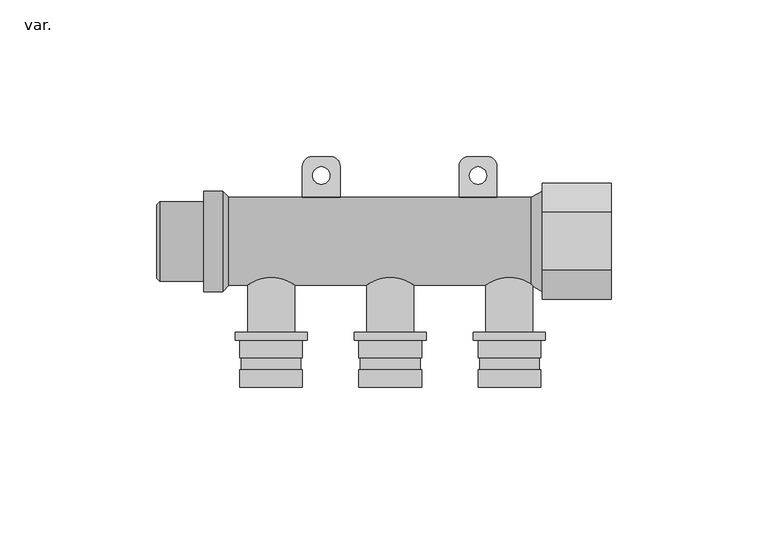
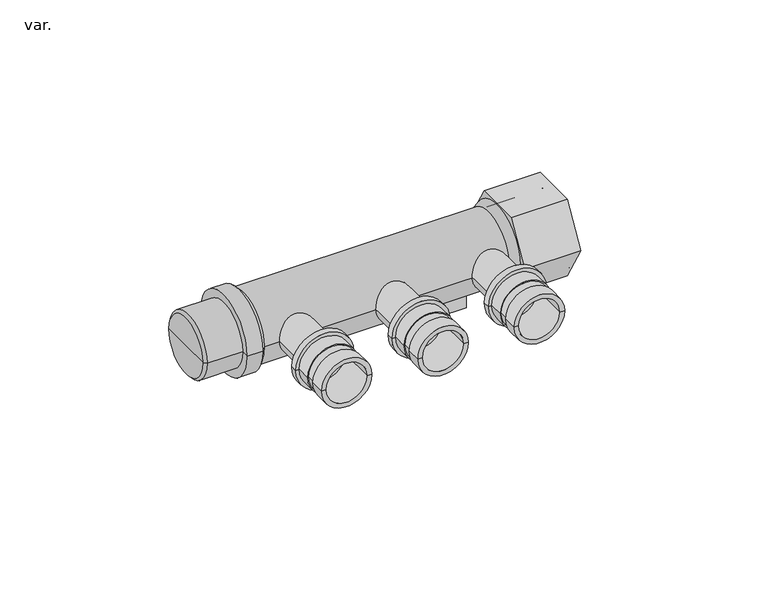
"""IFC4 building model written with IfcOpenShell, lengths in millimetres: pipe fitting geometry, AmancoWavin_ConexõesdeTubos_PEXMódulodeDistribuiçãoAberto3_4x16mm : var.."""

from ifc_helpers import new_model, si_unit, point, frame, origin, origin_2d, place, context, project, spatial, polyline, circle_curve, trimmed, segment, composite_curve, outline, extrude, source, transform, mapped, element, save
from ifc_brep_helpers import plane_surface, cylinder_surface, revolved_surface, advanced_brep


def var_a0e1c215(model_context):
    return source(origin(), model_context, "Body", "SolidModel", [
        advanced_brep(
        [(122.5, -46.5, 0.0), (102.5, -46.5, 0.0), (102.5, -40.875, 0.0), (122.5, -40.875, 0.0), (120.675, -46.5, 0.0), (104.325, -46.5, 0.0), (120.675, -31.5, 0.0), (104.325, -31.5, 0.0), (122.5, -31.5, 0.0), (102.5, -31.5, 0.0), (122.5, -37.125, 0.0), (102.5, -37.125, 0.0), (103.0, -40.875, 0.0), (122.0, -40.875, 0.0), (103.0, -37.125, 0.0), (122.0, -37.125, 0.0)],
        [
            (0, 1, circle_curve(frame((112.5, -46.5, 0.0), z_axis=(0.0, 1.0, 0.0), x_axis=(-1.0, 0.0, 0.0)), 10.0)),
            (1, 2),
            (2, 3, circle_curve(frame((112.5, -40.875, 0.0), z_axis=(0.0, -1.0, 0.0), x_axis=(-1.0, 0.0, 0.0)), 10.0)),
            (3, 0),
            (1, 0, circle_curve(frame((112.5, -46.5, 0.0), z_axis=(0.0, 1.0, 0.0), x_axis=(-1.0, 0.0, 0.0)), 10.0)),
            (3, 2, circle_curve(frame((112.5, -40.875, 0.0), z_axis=(0.0, -1.0, 0.0), x_axis=(-1.0, 0.0, 0.0)), 10.0)),
            (0, 4),
            (4, 5, circle_curve(frame((112.5, -46.5, 0.0), z_axis=(0.0, 1.0, 0.0), x_axis=(-1.0, 0.0, 0.0)), 8.175)),
            (5, 1),
            (5, 4, circle_curve(frame((112.5, -46.5, 0.0), z_axis=(0.0, 1.0, 0.0), x_axis=(-1.0, 0.0, 0.0)), 8.175)),
            (4, 6),
            (6, 7, circle_curve(frame((112.5, -31.5, 0.0), z_axis=(0.0, 1.0, 0.0), x_axis=(-1.0, 0.0, 0.0)), 8.175)),
            (7, 5),
            (7, 6, circle_curve(frame((112.5, -31.5, 0.0), z_axis=(0.0, 1.0, 0.0), x_axis=(-1.0, 0.0, 0.0)), 8.175)),
            (6, 8),
            (8, 9, circle_curve(frame((112.5, -31.5, 0.0), z_axis=(0.0, 1.0, 0.0), x_axis=(-1.0, 0.0, 0.0)), 10.0)),
            (9, 7),
            (9, 8, circle_curve(frame((112.5, -31.5, 0.0), z_axis=(0.0, 1.0, 0.0), x_axis=(-1.0, 0.0, 0.0)), 10.0)),
            (8, 10),
            (10, 11, circle_curve(frame((112.5, -37.125, 0.0), z_axis=(0.0, 1.0, 0.0), x_axis=(-1.0, 0.0, 0.0)), 10.0)),
            (11, 9),
            (11, 10, circle_curve(frame((112.5, -37.125, 0.0), z_axis=(0.0, 1.0, 0.0), x_axis=(-1.0, 0.0, 0.0)), 10.0)),
            (12, 13, circle_curve(frame((112.5, -40.875, 0.0), z_axis=(0.0, -1.0, 0.0), x_axis=(-1.0, 0.0, 0.0)), 9.5)),
            (13, 3),
            (2, 12),
            (13, 12, circle_curve(frame((112.5, -40.875, 0.0), z_axis=(0.0, -1.0, 0.0), x_axis=(-1.0, 0.0, 0.0)), 9.5)),
            (12, 14),
            (14, 15, circle_curve(frame((112.5, -37.125, 0.0), z_axis=(0.0, -1.0, 0.0), x_axis=(-1.0, 0.0, 0.0)), 9.5)),
            (15, 13),
            (15, 14, circle_curve(frame((112.5, -37.125, 0.0), z_axis=(0.0, -1.0, 0.0), x_axis=(-1.0, 0.0, 0.0)), 9.5)),
            (14, 11),
            (10, 15),
        ],
        [
            cylinder_surface(frame((112.5, -2040.6007619, 0.0), z_axis=(0.0, -1.0, 0.0), x_axis=(-1.0, 0.0, 0.0)), 10.0),
            plane_surface(frame((112.5, -46.5, 0.0), z_axis=(0.0, -1.0, 0.0), x_axis=(-1.0, 0.0, 0.0))),
            revolved_surface(polyline([(104.325, -46.5, 0.0), (104.325, -31.5, 0.0)]), (112.5, -2040.6007619, 0.0), (0.0, -1.0, 0.0)),
            plane_surface(frame((112.5, -31.5, 0.0), z_axis=(0.0, 1.0, 0.0), x_axis=(-1.0, 0.0, 0.0))),
            plane_surface(frame((112.5, -40.875, 0.0), z_axis=(0.0, 1.0, 0.0), x_axis=(-1.0, 0.0, 0.0))),
            cylinder_surface(frame((112.5, -2040.6007619, 0.0), z_axis=(0.0, -1.0, 0.0), x_axis=(-1.0, 0.0, 0.0)), 9.5),
            plane_surface(frame((112.5, -37.125, 0.0), z_axis=(0.0, -1.0, 0.0), x_axis=(-1.0, 0.0, 0.0))),
        ],
        [
            (0, [[1, 2, 3, 4]]),
            (0, [[5, -4, 6, -2]]),
            (1, [[-1, 7, 8, 9]]),
            (1, [[-5, -9, 10, -7]]),
            (2, [[-8, 11, 12, 13]]),
            (2, [[-10, -13, 14, -11]]),
            (3, [[-12, 15, 16, 17]]),
            (3, [[-14, -17, 18, -15]]),
            (0, [[-16, 19, 20, 21]]),
            (0, [[-18, -21, 22, -19]]),
            (4, [[23, 24, -3, 25]]),
            (4, [[26, -25, -6, -24]]),
            (5, [[-23, 27, 28, 29]]),
            (5, [[-26, -29, 30, -27]]),
            (6, [[-28, 31, -20, 32]]),
            (6, [[-30, -32, -22, -31]]),
        ],
    ),
        advanced_brep(
        [(84.5, -46.5, 0.0), (64.5, -46.5, 0.0), (64.5, -40.875, 0.0), (84.5, -40.875, 0.0), (82.675, -46.5, 0.0), (66.325, -46.5, 0.0), (82.675, -31.5, 0.0), (66.325, -31.5, 0.0), (84.5, -31.5, 0.0), (64.5, -31.5, 0.0), (84.5, -37.125, 0.0), (64.5, -37.125, 0.0), (65.0, -40.875, 0.0), (84.0, -40.875, 0.0), (65.0, -37.125, 0.0), (84.0, -37.125, 0.0)],
        [
            (0, 1, circle_curve(frame((74.5, -46.5, 0.0), z_axis=(0.0, 1.0, 0.0), x_axis=(-1.0, 0.0, 0.0)), 10.0)),
            (1, 2),
            (2, 3, circle_curve(frame((74.5, -40.875, 0.0), z_axis=(0.0, -1.0, 0.0), x_axis=(-1.0, 0.0, 0.0)), 10.0)),
            (3, 0),
            (1, 0, circle_curve(frame((74.5, -46.5, 0.0), z_axis=(0.0, 1.0, 0.0), x_axis=(-1.0, 0.0, 0.0)), 10.0)),
            (3, 2, circle_curve(frame((74.5, -40.875, 0.0), z_axis=(0.0, -1.0, 0.0), x_axis=(-1.0, 0.0, 0.0)), 10.0)),
            (0, 4),
            (4, 5, circle_curve(frame((74.5, -46.5, 0.0), z_axis=(0.0, 1.0, 0.0), x_axis=(-1.0, 0.0, 0.0)), 8.175)),
            (5, 1),
            (5, 4, circle_curve(frame((74.5, -46.5, 0.0), z_axis=(0.0, 1.0, 0.0), x_axis=(-1.0, 0.0, 0.0)), 8.175)),
            (4, 6),
            (6, 7, circle_curve(frame((74.5, -31.5, 0.0), z_axis=(0.0, 1.0, 0.0), x_axis=(-1.0, 0.0, 0.0)), 8.175)),
            (7, 5),
            (7, 6, circle_curve(frame((74.5, -31.5, 0.0), z_axis=(0.0, 1.0, 0.0), x_axis=(-1.0, 0.0, 0.0)), 8.175)),
            (6, 8),
            (8, 9, circle_curve(frame((74.5, -31.5, 0.0), z_axis=(0.0, 1.0, 0.0), x_axis=(-1.0, 0.0, 0.0)), 10.0)),
            (9, 7),
            (9, 8, circle_curve(frame((74.5, -31.5, 0.0), z_axis=(0.0, 1.0, 0.0), x_axis=(-1.0, 0.0, 0.0)), 10.0)),
            (8, 10),
            (10, 11, circle_curve(frame((74.5, -37.125, 0.0), z_axis=(0.0, 1.0, 0.0), x_axis=(-1.0, 0.0, 0.0)), 10.0)),
            (11, 9),
            (11, 10, circle_curve(frame((74.5, -37.125, 0.0), z_axis=(0.0, 1.0, 0.0), x_axis=(-1.0, 0.0, 0.0)), 10.0)),
            (12, 13, circle_curve(frame((74.5, -40.875, 0.0), z_axis=(0.0, -1.0, 0.0), x_axis=(-1.0, 0.0, 0.0)), 9.5)),
            (13, 3),
            (2, 12),
            (13, 12, circle_curve(frame((74.5, -40.875, 0.0), z_axis=(0.0, -1.0, 0.0), x_axis=(-1.0, 0.0, 0.0)), 9.5)),
            (12, 14),
            (14, 15, circle_curve(frame((74.5, -37.125, 0.0), z_axis=(0.0, -1.0, 0.0), x_axis=(-1.0, 0.0, 0.0)), 9.5)),
            (15, 13),
            (15, 14, circle_curve(frame((74.5, -37.125, 0.0), z_axis=(0.0, -1.0, 0.0), x_axis=(-1.0, 0.0, 0.0)), 9.5)),
            (14, 11),
            (10, 15),
        ],
        [
            cylinder_surface(frame((74.5, -2040.6007619, 0.0), z_axis=(0.0, -1.0, 0.0), x_axis=(-1.0, 0.0, 0.0)), 10.0),
            plane_surface(frame((74.5, -46.5, 0.0), z_axis=(0.0, -1.0, 0.0), x_axis=(-1.0, 0.0, 0.0))),
            revolved_surface(polyline([(66.325, -46.5, 0.0), (66.325, -31.5, 0.0)]), (74.5, -2040.6007619, 0.0), (0.0, -1.0, 0.0)),
            plane_surface(frame((74.5, -31.5, 0.0), z_axis=(0.0, 1.0, 0.0), x_axis=(-1.0, 0.0, 0.0))),
            plane_surface(frame((74.5, -40.875, 0.0), z_axis=(0.0, 1.0, 0.0), x_axis=(-1.0, 0.0, 0.0))),
            cylinder_surface(frame((74.5, -2040.6007619, 0.0), z_axis=(0.0, -1.0, 0.0), x_axis=(-1.0, 0.0, 0.0)), 9.5),
            plane_surface(frame((74.5, -37.125, 0.0), z_axis=(0.0, -1.0, 0.0), x_axis=(-1.0, 0.0, 0.0))),
        ],
        [
            (0, [[1, 2, 3, 4]]),
            (0, [[5, -4, 6, -2]]),
            (1, [[-1, 7, 8, 9]]),
            (1, [[-5, -9, 10, -7]]),
            (2, [[-8, 11, 12, 13]]),
            (2, [[-10, -13, 14, -11]]),
            (3, [[-12, 15, 16, 17]]),
            (3, [[-14, -17, 18, -15]]),
            (0, [[-16, 19, 20, 21]]),
            (0, [[-18, -21, 22, -19]]),
            (4, [[23, 24, -3, 25]]),
            (4, [[26, -25, -6, -24]]),
            (5, [[-23, 27, 28, 29]]),
            (5, [[-26, -29, 30, -27]]),
            (6, [[-28, 31, -20, 32]]),
            (6, [[-30, -32, -22, -31]]),
        ],
    ),
        advanced_brep(
        [(46.5, -46.5, 0.0), (26.5, -46.5, 0.0), (26.5, -40.875, 0.0), (46.5, -40.875, 0.0), (44.675, -46.5, 0.0), (28.325, -46.5, 0.0), (44.675, -31.5, 0.0), (28.325, -31.5, 0.0), (46.5, -31.5, 0.0), (26.5, -31.5, 0.0), (46.5, -37.125, 0.0), (26.5, -37.125, 0.0), (27.0, -40.875, 0.0), (46.0, -40.875, 0.0), (27.0, -37.125, 0.0), (46.0, -37.125, 0.0)],
        [
            (0, 1, circle_curve(frame((36.5, -46.5, 0.0), z_axis=(0.0, 1.0, 0.0), x_axis=(-1.0, 0.0, 0.0)), 10.0)),
            (1, 2),
            (2, 3, circle_curve(frame((36.5, -40.875, 0.0), z_axis=(0.0, -1.0, 0.0), x_axis=(-1.0, 0.0, 0.0)), 10.0)),
            (3, 0),
            (1, 0, circle_curve(frame((36.5, -46.5, 0.0), z_axis=(0.0, 1.0, 0.0), x_axis=(-1.0, 0.0, 0.0)), 10.0)),
            (3, 2, circle_curve(frame((36.5, -40.875, 0.0), z_axis=(0.0, -1.0, 0.0), x_axis=(-1.0, 0.0, 0.0)), 10.0)),
            (0, 4),
            (4, 5, circle_curve(frame((36.5, -46.5, 0.0), z_axis=(0.0, 1.0, 0.0), x_axis=(-1.0, 0.0, 0.0)), 8.175)),
            (5, 1),
            (5, 4, circle_curve(frame((36.5, -46.5, 0.0), z_axis=(0.0, 1.0, 0.0), x_axis=(-1.0, 0.0, 0.0)), 8.175)),
            (4, 6),
            (6, 7, circle_curve(frame((36.5, -31.5, 0.0), z_axis=(0.0, 1.0, 0.0), x_axis=(-1.0, 0.0, 0.0)), 8.175)),
            (7, 5),
            (7, 6, circle_curve(frame((36.5, -31.5, 0.0), z_axis=(0.0, 1.0, 0.0), x_axis=(-1.0, 0.0, 0.0)), 8.175)),
            (6, 8),
            (8, 9, circle_curve(frame((36.5, -31.5, 0.0), z_axis=(0.0, 1.0, 0.0), x_axis=(-1.0, 0.0, 0.0)), 10.0)),
            (9, 7),
            (9, 8, circle_curve(frame((36.5, -31.5, 0.0), z_axis=(0.0, 1.0, 0.0), x_axis=(-1.0, 0.0, 0.0)), 10.0)),
            (8, 10),
            (10, 11, circle_curve(frame((36.5, -37.125, 0.0), z_axis=(0.0, 1.0, 0.0), x_axis=(-1.0, 0.0, 0.0)), 10.0)),
            (11, 9),
            (11, 10, circle_curve(frame((36.5, -37.125, 0.0), z_axis=(0.0, 1.0, 0.0), x_axis=(-1.0, 0.0, 0.0)), 10.0)),
            (12, 13, circle_curve(frame((36.5, -40.875, 0.0), z_axis=(0.0, -1.0, 0.0), x_axis=(-1.0, 0.0, 0.0)), 9.5)),
            (13, 3),
            (2, 12),
            (13, 12, circle_curve(frame((36.5, -40.875, 0.0), z_axis=(0.0, -1.0, 0.0), x_axis=(-1.0, 0.0, 0.0)), 9.5)),
            (12, 14),
            (14, 15, circle_curve(frame((36.5, -37.125, 0.0), z_axis=(0.0, -1.0, 0.0), x_axis=(-1.0, 0.0, 0.0)), 9.5)),
            (15, 13),
            (15, 14, circle_curve(frame((36.5, -37.125, 0.0), z_axis=(0.0, -1.0, 0.0), x_axis=(-1.0, 0.0, 0.0)), 9.5)),
            (14, 11),
            (10, 15),
        ],
        [
            cylinder_surface(frame((36.5, -2040.6007619, 0.0), z_axis=(0.0, -1.0, 0.0), x_axis=(-1.0, 0.0, 0.0)), 10.0),
            plane_surface(frame((36.5, -46.5, 0.0), z_axis=(0.0, -1.0, 0.0), x_axis=(-1.0, 0.0, 0.0))),
            revolved_surface(polyline([(28.325, -46.5, 0.0), (28.325, -31.5, 0.0)]), (36.5, -2040.6007619, 0.0), (0.0, -1.0, 0.0)),
            plane_surface(frame((36.5, -31.5, 0.0), z_axis=(0.0, 1.0, 0.0), x_axis=(-1.0, 0.0, 0.0))),
            plane_surface(frame((36.5, -40.875, 0.0), z_axis=(0.0, 1.0, 0.0), x_axis=(-1.0, 0.0, 0.0))),
            cylinder_surface(frame((36.5, -2040.6007619, 0.0), z_axis=(0.0, -1.0, 0.0), x_axis=(-1.0, 0.0, 0.0)), 9.5),
            plane_surface(frame((36.5, -37.125, 0.0), z_axis=(0.0, -1.0, 0.0), x_axis=(-1.0, 0.0, 0.0))),
        ],
        [
            (0, [[1, 2, 3, 4]]),
            (0, [[5, -4, 6, -2]]),
            (1, [[-1, 7, 8, 9]]),
            (1, [[-5, -9, 10, -7]]),
            (2, [[-8, 11, 12, 13]]),
            (2, [[-10, -13, 14, -11]]),
            (3, [[-12, 15, 16, 17]]),
            (3, [[-14, -17, 18, -15]]),
            (0, [[-16, 19, 20, 21]]),
            (0, [[-18, -21, 22, -19]]),
            (4, [[23, 24, -3, 25]]),
            (4, [[26, -25, -6, -24]]),
            (5, [[-23, 27, 28, 29]]),
            (5, [[-26, -29, 30, -27]]),
            (6, [[-28, 31, -20, 32]]),
            (6, [[-30, -32, -22, -31]]),
        ],
    ),
        advanced_brep(
        [(120.0, 0.0, 0.0), (105.0, 0.0, 0.0), (112.5, 0.0, 0.0), (120.0, -29.0, 0.0), (105.0, -29.0, 0.0), (124.0, -29.0, 0.0), (101.0, -29.0, 0.0), (124.0, -31.5, 0.0), (101.0, -31.5, 0.0), (112.5, -31.5, 0.0)],
        [
            (0, 1, circle_curve(frame((112.5, 0.0, 0.0), z_axis=(0.0, 1.0, 0.0), x_axis=(-1.0, 0.0, 0.0)), 7.5)),
            (1, 2),
            (2, 0),
            (1, 0, circle_curve(frame((112.5, 0.0, 0.0), z_axis=(0.0, 1.0, 0.0), x_axis=(-1.0, 0.0, 0.0)), 7.5)),
            (3, 4, circle_curve(frame((112.5, -29.0, 0.0), z_axis=(0.0, 1.0, 0.0), x_axis=(-1.0, 0.0, 0.0)), 7.5)),
            (4, 1),
            (0, 3),
            (4, 3, circle_curve(frame((112.5, -29.0, 0.0), z_axis=(0.0, 1.0, 0.0), x_axis=(-1.0, 0.0, 0.0)), 7.5)),
            (5, 6, circle_curve(frame((112.5, -29.0, 0.0), z_axis=(0.0, 1.0, 0.0), x_axis=(-1.0, 0.0, 0.0)), 11.5)),
            (6, 4),
            (3, 5),
            (6, 5, circle_curve(frame((112.5, -29.0, 0.0), z_axis=(0.0, 1.0, 0.0), x_axis=(-1.0, 0.0, 0.0)), 11.5)),
            (7, 8, circle_curve(frame((112.5, -31.5, 0.0), z_axis=(0.0, 1.0, 0.0), x_axis=(-1.0, 0.0, 0.0)), 11.5)),
            (8, 6),
            (5, 7),
            (8, 7, circle_curve(frame((112.5, -31.5, 0.0), z_axis=(0.0, 1.0, 0.0), x_axis=(-1.0, 0.0, 0.0)), 11.5)),
            (9, 8),
            (7, 9),
        ],
        [
            plane_surface(frame((112.5, 0.0, 0.0), z_axis=(0.0, 1.0, 0.0), x_axis=(-1.0, 0.0, 0.0))),
            cylinder_surface(frame((112.5, 0.0, 0.0), z_axis=(0.0, -1.0, 0.0), x_axis=(-1.0, 0.0, 0.0)), 7.5),
            plane_surface(frame((112.5, -29.0, 0.0), z_axis=(0.0, 1.0, 0.0), x_axis=(-1.0, 0.0, 0.0))),
            cylinder_surface(frame((112.5, 0.0, 0.0), z_axis=(0.0, -1.0, 0.0), x_axis=(-1.0, 0.0, 0.0)), 11.5),
            plane_surface(frame((112.5, -31.5, 0.0), z_axis=(0.0, -1.0, 0.0), x_axis=(-1.0, 0.0, 0.0))),
        ],
        [
            (0, [[1, 2, 3]]),
            (0, [[4, -3, -2]]),
            (1, [[5, 6, -1, 7]]),
            (1, [[8, -7, -4, -6]]),
            (2, [[9, 10, -5, 11]]),
            (2, [[12, -11, -8, -10]]),
            (3, [[13, 14, -9, 15]]),
            (3, [[16, -15, -12, -14]]),
            (4, [[17, -13, 18]]),
            (4, [[-18, -16, -17]]),
        ],
    ),
        advanced_brep(
        [(82.0, 0.0, 0.0), (67.0, 0.0, 0.0), (74.5, 0.0, 0.0), (82.0, -29.0, 0.0), (67.0, -29.0, 0.0), (86.0, -29.0, 0.0), (63.0, -29.0, 0.0), (86.0, -31.5, 0.0), (63.0, -31.5, 0.0), (74.5, -31.5, 0.0)],
        [
            (0, 1, circle_curve(frame((74.5, 0.0, 0.0), z_axis=(0.0, 1.0, 0.0), x_axis=(-1.0, 0.0, 0.0)), 7.5)),
            (1, 2),
            (2, 0),
            (1, 0, circle_curve(frame((74.5, 0.0, 0.0), z_axis=(0.0, 1.0, 0.0), x_axis=(-1.0, 0.0, 0.0)), 7.5)),
            (3, 4, circle_curve(frame((74.5, -29.0, 0.0), z_axis=(0.0, 1.0, 0.0), x_axis=(-1.0, 0.0, 0.0)), 7.5)),
            (4, 1),
            (0, 3),
            (4, 3, circle_curve(frame((74.5, -29.0, 0.0), z_axis=(0.0, 1.0, 0.0), x_axis=(-1.0, 0.0, 0.0)), 7.5)),
            (5, 6, circle_curve(frame((74.5, -29.0, 0.0), z_axis=(0.0, 1.0, 0.0), x_axis=(-1.0, 0.0, 0.0)), 11.5)),
            (6, 4),
            (3, 5),
            (6, 5, circle_curve(frame((74.5, -29.0, 0.0), z_axis=(0.0, 1.0, 0.0), x_axis=(-1.0, 0.0, 0.0)), 11.5)),
            (7, 8, circle_curve(frame((74.5, -31.5, 0.0), z_axis=(0.0, 1.0, 0.0), x_axis=(-1.0, 0.0, 0.0)), 11.5)),
            (8, 6),
            (5, 7),
            (8, 7, circle_curve(frame((74.5, -31.5, 0.0), z_axis=(0.0, 1.0, 0.0), x_axis=(-1.0, 0.0, 0.0)), 11.5)),
            (9, 8),
            (7, 9),
        ],
        [
            plane_surface(frame((74.5, 0.0, 0.0), z_axis=(0.0, 1.0, 0.0), x_axis=(-1.0, 0.0, 0.0))),
            cylinder_surface(frame((74.5, 0.0, 0.0), z_axis=(0.0, -1.0, 0.0), x_axis=(-1.0, 0.0, 0.0)), 7.5),
            plane_surface(frame((74.5, -29.0, 0.0), z_axis=(0.0, 1.0, 0.0), x_axis=(-1.0, 0.0, 0.0))),
            cylinder_surface(frame((74.5, 0.0, 0.0), z_axis=(0.0, -1.0, 0.0), x_axis=(-1.0, 0.0, 0.0)), 11.5),
            plane_surface(frame((74.5, -31.5, 0.0), z_axis=(0.0, -1.0, 0.0), x_axis=(-1.0, 0.0, 0.0))),
        ],
        [
            (0, [[1, 2, 3]]),
            (0, [[4, -3, -2]]),
            (1, [[5, 6, -1, 7]]),
            (1, [[8, -7, -4, -6]]),
            (2, [[9, 10, -5, 11]]),
            (2, [[12, -11, -8, -10]]),
            (3, [[13, 14, -9, 15]]),
            (3, [[16, -15, -12, -14]]),
            (4, [[17, -13, 18]]),
            (4, [[-18, -16, -17]]),
        ],
    ),
        advanced_brep(
        [(44.0, 0.0, 0.0), (29.0, 0.0, 0.0), (36.5, 0.0, 0.0), (44.0, -29.0, 0.0), (29.0, -29.0, 0.0), (48.0, -29.0, 0.0), (25.0, -29.0, 0.0), (48.0, -31.5, 0.0), (25.0, -31.5, 0.0), (36.5, -31.5, 0.0)],
        [
            (0, 1, circle_curve(frame((36.5, 0.0, 0.0), z_axis=(0.0, 1.0, 0.0), x_axis=(-1.0, 0.0, 0.0)), 7.5)),
            (1, 2),
            (2, 0),
            (1, 0, circle_curve(frame((36.5, 0.0, 0.0), z_axis=(0.0, 1.0, 0.0), x_axis=(-1.0, 0.0, 0.0)), 7.5)),
            (3, 4, circle_curve(frame((36.5, -29.0, 0.0), z_axis=(0.0, 1.0, 0.0), x_axis=(-1.0, 0.0, 0.0)), 7.5)),
            (4, 1),
            (0, 3),
            (4, 3, circle_curve(frame((36.5, -29.0, 0.0), z_axis=(0.0, 1.0, 0.0), x_axis=(-1.0, 0.0, 0.0)), 7.5)),
            (5, 6, circle_curve(frame((36.5, -29.0, 0.0), z_axis=(0.0, 1.0, 0.0), x_axis=(-1.0, 0.0, 0.0)), 11.5)),
            (6, 4),
            (3, 5),
            (6, 5, circle_curve(frame((36.5, -29.0, 0.0), z_axis=(0.0, 1.0, 0.0), x_axis=(-1.0, 0.0, 0.0)), 11.5)),
            (7, 8, circle_curve(frame((36.5, -31.5, 0.0), z_axis=(0.0, 1.0, 0.0), x_axis=(-1.0, 0.0, 0.0)), 11.5)),
            (8, 6),
            (5, 7),
            (8, 7, circle_curve(frame((36.5, -31.5, 0.0), z_axis=(0.0, 1.0, 0.0), x_axis=(-1.0, 0.0, 0.0)), 11.5)),
            (9, 8),
            (7, 9),
        ],
        [
            plane_surface(frame((36.5, 0.0, 0.0), z_axis=(0.0, 1.0, 0.0), x_axis=(-1.0, 0.0, 0.0))),
            cylinder_surface(frame((36.5, 0.0, 0.0), z_axis=(0.0, -1.0, 0.0), x_axis=(-1.0, 0.0, 0.0)), 7.5),
            plane_surface(frame((36.5, -29.0, 0.0), z_axis=(0.0, 1.0, 0.0), x_axis=(-1.0, 0.0, 0.0))),
            cylinder_surface(frame((36.5, 0.0, 0.0), z_axis=(0.0, -1.0, 0.0), x_axis=(-1.0, 0.0, 0.0)), 11.5),
            plane_surface(frame((36.5, -31.5, 0.0), z_axis=(0.0, -1.0, 0.0), x_axis=(-1.0, 0.0, 0.0))),
        ],
        [
            (0, [[1, 2, 3]]),
            (0, [[4, -3, -2]]),
            (1, [[5, 6, -1, 7]]),
            (1, [[8, -7, -4, -6]]),
            (2, [[9, 10, -5, 11]]),
            (2, [[12, -11, -8, -10]]),
            (3, [[13, 14, -9, 15]]),
            (3, [[16, -15, -12, -14]]),
            (4, [[17, -13, 18]]),
            (4, [[-18, -16, -17]]),
        ],
    ),
        advanced_brep(
        [(96.5, -3.5, 0.0), (108.5, -3.5, 0.0), (108.5, 14.0, 0.0), (96.5, 14.0, 0.0), (96.5, 24.0, -20.0), (99.5, 27.0, -20.0), (105.5, 27.0, -20.0), (108.5, 24.0, -20.0), (108.5, -3.5, -20.0), (96.5, -3.5, -20.0), (99.75, 21.0, -20.0), (105.25, 21.0, -20.0), (108.5, 24.0, -16.5), (108.5, 14.0, -16.5), (96.5, 14.0, -16.5), (96.5, 24.0, -16.5), (105.5, 27.0, -16.5), (99.5, 27.0, -16.5), (99.75, 21.0, -16.5), (105.25, 21.0, -16.5)],
        [
            (0, 1),
            (1, 2),
            (2, 3),
            (3, 0),
            (4, 5, circle_curve(frame((99.5, 24.0, -20.0), z_axis=(0.0, 0.0, -1.0), x_axis=(1.0, 0.0, 0.0)), 3.0)),
            (5, 6),
            (6, 7, circle_curve(frame((105.5, 24.0, -20.0), z_axis=(0.0, 0.0, -1.0), x_axis=(1.0, 0.0, 0.0)), 3.0)),
            (7, 8),
            (8, 9),
            (9, 4),
            (10, 11, circle_curve(frame((102.5, 21.0, -20.0), z_axis=(0.0, 0.0, 1.0), x_axis=(1.0, 0.0, 0.0)), 2.75)),
            (11, 10, circle_curve(frame((102.5, 21.0, -20.0), z_axis=(0.0, 0.0, 1.0), x_axis=(1.0, 0.0, 0.0)), 2.75)),
            (8, 1),
            (0, 9),
            (7, 12),
            (12, 13),
            (13, 2),
            (13, 14),
            (14, 3),
            (14, 15),
            (15, 4),
            (16, 17),
            (17, 15, circle_curve(frame((99.5, 24.0, -16.5), z_axis=(0.0, 0.0, 1.0), x_axis=(1.0, 0.0, 0.0)), 3.0)),
            (12, 16, circle_curve(frame((105.5, 24.0, -16.5), z_axis=(0.0, 0.0, 1.0), x_axis=(1.0, 0.0, 0.0)), 3.0)),
            (18, 19, circle_curve(frame((102.5, 21.0, -16.5), z_axis=(0.0, 0.0, -1.0), x_axis=(1.0, 0.0, 0.0)), 2.75)),
            (19, 18, circle_curve(frame((102.5, 21.0, -16.5), z_axis=(0.0, 0.0, -1.0), x_axis=(1.0, 0.0, 0.0)), 2.75)),
            (5, 17),
            (16, 6),
            (11, 19),
            (18, 10),
        ],
        [
            plane_surface(frame((108.5, -3.5, 0.0), z_axis=(0.0, 0.0, 1.0), x_axis=(1.0, 0.0, 0.0))),
            plane_surface(frame((108.5, -3.5, -20.0), z_axis=(0.0, 0.0, -1.0), x_axis=(-1.0, 0.0, 0.0))),
            plane_surface(frame((96.5, -3.5, 0.0), z_axis=(0.0, -1.0, 0.0), x_axis=(0.0, 0.0, -1.0))),
            plane_surface(frame((108.5, -3.5, 0.0), z_axis=(1.0, 0.0, 0.0), x_axis=(0.0, 0.0, -1.0))),
            plane_surface(frame((108.5, 14.0, 0.0), z_axis=(0.0, 1.0, 0.0), x_axis=(0.0, 0.0, -1.0))),
            plane_surface(frame((96.5, 14.0, 0.0), z_axis=(-1.0, 0.0, 0.0), x_axis=(0.0, 0.0, -1.0))),
            plane_surface(frame((99.5, 27.0, -16.5), z_axis=(0.0, 0.0, 1.0), x_axis=(-1.0, 0.0, 0.0))),
            plane_surface(frame((105.5, 27.0, -16.5), z_axis=(0.0, 1.0, 0.0), x_axis=(0.0, 0.0, -1.0))),
            cylinder_surface(frame((99.5, 24.0, -20.0), z_axis=(0.0, 0.0, 1.0), x_axis=(1.0, 0.0, 0.0)), 3.0),
            cylinder_surface(frame((105.5, 24.0, -20.0), z_axis=(0.0, 0.0, 1.0), x_axis=(1.0, 0.0, 0.0)), 3.0),
            revolved_surface(polyline([(105.25, 21.0, -20.0), (105.25, 21.0, -16.5)]), (102.5, 21.0, 0.0), (0.0, 0.0, -1.0)),
        ],
        [
            (0, [[1, 2, 3, 4]]),
            (1, [[5, 6, 7, 8, 9, 10], [11, 12]]),
            (2, [[13, -1, 14, -9]]),
            (3, [[-2, -13, -8, 15, 16, 17]]),
            (4, [[-3, -17, 18, 19]]),
            (5, [[-4, -19, 20, 21, -10, -14]]),
            (6, [[22, 23, -20, -18, -16, 24], [25, 26]]),
            (7, [[-6, 27, -22, 28]]),
            (8, [[-5, -21, -23, -27]]),
            (9, [[-7, -28, -24, -15]]),
            (10, [[-12, 29, -25, 30]]),
            (10, [[-11, -30, -26, -29]]),
        ],
    ),
        advanced_brep(
        [(46.5, -3.5, 0.0), (58.5, -3.5, 0.0), (58.5, 14.0, 0.0), (46.5, 14.0, 0.0), (46.5, 24.0, -20.0), (49.5, 27.0, -20.0), (55.5, 27.0, -20.0), (58.5, 24.0, -20.0), (58.5, -3.5, -20.0), (46.5, -3.5, -20.0), (49.75, 21.0, -20.0), (55.25, 21.0, -20.0), (58.5, 24.0, -16.5), (58.5, 14.0, -16.5), (46.5, 14.0, -16.5), (46.5, 24.0, -16.5), (55.5, 27.0, -16.5), (49.5, 27.0, -16.5), (49.75, 21.0, -16.5), (55.25, 21.0, -16.5)],
        [
            (0, 1),
            (1, 2),
            (2, 3),
            (3, 0),
            (4, 5, circle_curve(frame((49.5, 24.0, -20.0), z_axis=(0.0, 0.0, -1.0), x_axis=(1.0, 0.0, 0.0)), 3.0)),
            (5, 6),
            (6, 7, circle_curve(frame((55.5, 24.0, -20.0), z_axis=(0.0, 0.0, -1.0), x_axis=(1.0, 0.0, 0.0)), 3.0)),
            (7, 8),
            (8, 9),
            (9, 4),
            (10, 11, circle_curve(frame((52.5, 21.0, -20.0), z_axis=(0.0, 0.0, 1.0), x_axis=(1.0, 0.0, 0.0)), 2.75)),
            (11, 10, circle_curve(frame((52.5, 21.0, -20.0), z_axis=(0.0, 0.0, 1.0), x_axis=(1.0, 0.0, 0.0)), 2.75)),
            (8, 1),
            (0, 9),
            (7, 12),
            (12, 13),
            (13, 2),
            (13, 14),
            (14, 3),
            (14, 15),
            (15, 4),
            (16, 17),
            (17, 15, circle_curve(frame((49.5, 24.0, -16.5), z_axis=(0.0, 0.0, 1.0), x_axis=(1.0, 0.0, 0.0)), 3.0)),
            (12, 16, circle_curve(frame((55.5, 24.0, -16.5), z_axis=(0.0, 0.0, 1.0), x_axis=(1.0, 0.0, 0.0)), 3.0)),
            (18, 19, circle_curve(frame((52.5, 21.0, -16.5), z_axis=(0.0, 0.0, -1.0), x_axis=(1.0, 0.0, 0.0)), 2.75)),
            (19, 18, circle_curve(frame((52.5, 21.0, -16.5), z_axis=(0.0, 0.0, -1.0), x_axis=(1.0, 0.0, 0.0)), 2.75)),
            (16, 6),
            (5, 17),
            (18, 10),
            (11, 19),
        ],
        [
            plane_surface(frame((58.5, -3.5, 0.0), z_axis=(0.0, 0.0, 1.0), x_axis=(1.0, 0.0, 0.0))),
            plane_surface(frame((58.5, -3.5, -20.0), z_axis=(0.0, 0.0, -1.0), x_axis=(-1.0, 0.0, 0.0))),
            plane_surface(frame((46.5, -3.5, 0.0), z_axis=(0.0, -1.0, 0.0), x_axis=(0.0, 0.0, -1.0))),
            plane_surface(frame((58.5, -3.5, 0.0), z_axis=(1.0, 0.0, 0.0), x_axis=(0.0, 0.0, -1.0))),
            plane_surface(frame((58.5, 14.0, 0.0), z_axis=(0.0, 1.0, 0.0), x_axis=(0.0, 0.0, -1.0))),
            plane_surface(frame((46.5, 14.0, 0.0), z_axis=(-1.0, 0.0, 0.0), x_axis=(0.0, 0.0, -1.0))),
            plane_surface(frame((49.5, 27.0, -16.5), z_axis=(0.0, 0.0, 1.0), x_axis=(-1.0, 0.0, 0.0))),
            plane_surface(frame((55.5, 27.0, -16.5), z_axis=(0.0, 1.0, 0.0), x_axis=(0.0, 0.0, -1.0))),
            cylinder_surface(frame((49.5, 24.0, -20.0), z_axis=(0.0, 0.0, 1.0), x_axis=(1.0, 0.0, 0.0)), 3.0),
            cylinder_surface(frame((55.5, 24.0, -20.0), z_axis=(0.0, 0.0, 1.0), x_axis=(1.0, 0.0, 0.0)), 3.0),
            revolved_surface(polyline([(55.25, 21.0, -20.0), (55.25, 21.0, -16.5)]), (52.5, 21.0, 0.0), (0.0, 0.0, -1.0)),
        ],
        [
            (0, [[1, 2, 3, 4]]),
            (1, [[5, 6, 7, 8, 9, 10], [11, 12]]),
            (2, [[13, -1, 14, -9]]),
            (3, [[-2, -13, -8, 15, 16, 17]]),
            (4, [[-3, -17, 18, 19]]),
            (5, [[-4, -19, 20, 21, -10, -14]]),
            (6, [[22, 23, -20, -18, -16, 24], [25, 26]]),
            (7, [[-22, 27, -6, 28]]),
            (8, [[-23, -28, -5, -21]]),
            (9, [[-24, -15, -7, -27]]),
            (10, [[-25, 29, -12, 30]]),
            (10, [[-26, -30, -11, -29]]),
        ],
    ),
        extrude(outline(polyline([(18.4752086, 0.0), (9.2376043, -16.0), (-9.2376043, -16.0), (-18.4752086, 0.0), (-9.2376043, 16.0), (9.2376043, 16.0), (18.4752086, 0.0)]), holes=[composite_curve([segment(trimmed(circle_curve(origin_2d(), 12.7), [point((12.7, 0.0))], [point((-12.7, 0.0))], True, "CARTESIAN"), True, "CONTINUOUS"), segment(trimmed(circle_curve(origin_2d(), 12.7), [point((-12.7, 0.0))], [point((12.7, 0.0))], True, "CARTESIAN"), True, "CONTINUOUS")], self_intersect=False)]), frame((123.0, 0.0, 0.0), z_axis=(1.0, 0.0, 0.0), x_axis=(0.0, 1.0, 0.0)), (0.0, 0.0, 1.0), 22.0),
        advanced_brep(
        [(0.0, -11.7, 0.0), (0.0, 11.7, 0.0), (1.0, 12.7, 0.0), (1.0, -12.7, 0.0), (0.0, 0.0, 0.0), (15.0, 12.7, 0.0), (15.0, -12.7, 0.0), (127.0, -12.7, 0.0), (127.0, 12.7, 0.0), (127.0, 0.0, 0.0), (145.0, -12.7, 0.0), (145.0, 12.7, 0.0), (145.0, -16.0, 0.0), (145.0, 16.0, 0.0), (123.0, -16.0, 0.0), (123.0, 16.0, 0.0), (119.5358984, -14.0, 0.0), (119.5358984, 14.0, 0.0), (15.0, -16.0, 0.0), (15.0, 16.0, 0.0), (21.0, 16.0, 0.0), (21.0, -16.0, 0.0), (23.0, -14.0, 0.0), (23.0, 14.0, 0.0)],
        [
            (0, 1, circle_curve(frame((0.0, 0.0, 0.0), z_axis=(1.0, 0.0, 0.0), x_axis=(0.0, 1.0, 0.0)), 11.7)),
            (1, 2),
            (2, 3, circle_curve(frame((1.0, 0.0, 0.0), z_axis=(-1.0, 0.0, 0.0), x_axis=(0.0, 1.0, 0.0)), 12.7)),
            (3, 0),
            (1, 0, circle_curve(frame((0.0, 0.0, 0.0), z_axis=(1.0, 0.0, 0.0), x_axis=(0.0, 1.0, 0.0)), 11.7)),
            (3, 2, circle_curve(frame((1.0, 0.0, 0.0), z_axis=(-1.0, 0.0, 0.0), x_axis=(0.0, 1.0, 0.0)), 12.7)),
            (4, 1),
            (0, 4),
            (2, 5),
            (5, 6, circle_curve(frame((15.0, 0.0, 0.0), z_axis=(-1.0, 0.0, 0.0), x_axis=(0.0, 1.0, 0.0)), 12.7)),
            (6, 3),
            (6, 5, circle_curve(frame((15.0, 0.0, 0.0), z_axis=(-1.0, 0.0, 0.0), x_axis=(0.0, 1.0, 0.0)), 12.7)),
            (7, 8, circle_curve(frame((127.0, 0.0, 0.0), z_axis=(1.0, 0.0, 0.0), x_axis=(0.0, 1.0, 0.0)), 12.7)),
            (8, 9),
            (9, 7),
            (8, 7, circle_curve(frame((127.0, 0.0, 0.0), z_axis=(1.0, 0.0, 0.0), x_axis=(0.0, 1.0, 0.0)), 12.7)),
            (10, 11, circle_curve(frame((145.0, 0.0, 0.0), z_axis=(1.0, 0.0, 0.0), x_axis=(0.0, 1.0, 0.0)), 12.7)),
            (11, 8),
            (7, 10),
            (11, 10, circle_curve(frame((145.0, 0.0, 0.0), z_axis=(1.0, 0.0, 0.0), x_axis=(0.0, 1.0, 0.0)), 12.7)),
            (12, 13, circle_curve(frame((145.0, 0.0, 0.0), z_axis=(1.0, 0.0, 0.0), x_axis=(0.0, 1.0, 0.0)), 16.0)),
            (13, 11),
            (10, 12),
            (13, 12, circle_curve(frame((145.0, 0.0, 0.0), z_axis=(1.0, 0.0, 0.0), x_axis=(0.0, 1.0, 0.0)), 16.0)),
            (14, 15, circle_curve(frame((123.0, 0.0, 0.0), z_axis=(1.0, 0.0, 0.0), x_axis=(0.0, 1.0, 0.0)), 16.0)),
            (15, 13),
            (12, 14),
            (15, 14, circle_curve(frame((123.0, 0.0, 0.0), z_axis=(1.0, 0.0, 0.0), x_axis=(0.0, 1.0, 0.0)), 16.0)),
            (16, 17, circle_curve(frame((119.5358984, 0.0, 0.0), z_axis=(1.0, 0.0, 0.0), x_axis=(0.0, 1.0, 0.0)), 14.0)),
            (17, 15),
            (14, 16),
            (17, 16, circle_curve(frame((119.5358984, 0.0, 0.0), z_axis=(1.0, 0.0, 0.0), x_axis=(0.0, 1.0, 0.0)), 14.0)),
            (18, 19, circle_curve(frame((15.0, 0.0, 0.0), z_axis=(1.0, 0.0, 0.0), x_axis=(0.0, 1.0, 0.0)), 16.0)),
            (19, 20),
            (20, 21, circle_curve(frame((21.0, 0.0, 0.0), z_axis=(-1.0, 0.0, 0.0), x_axis=(0.0, 1.0, 0.0)), 16.0)),
            (21, 18),
            (19, 18, circle_curve(frame((15.0, 0.0, 0.0), z_axis=(1.0, 0.0, 0.0), x_axis=(0.0, 1.0, 0.0)), 16.0)),
            (21, 20, circle_curve(frame((21.0, 0.0, 0.0), z_axis=(-1.0, 0.0, 0.0), x_axis=(0.0, 1.0, 0.0)), 16.0)),
            (5, 19),
            (18, 6),
            (22, 23, circle_curve(frame((23.0, 0.0, 0.0), z_axis=(1.0, 0.0, 0.0), x_axis=(0.0, 1.0, 0.0)), 14.0)),
            (23, 17),
            (16, 22),
            (23, 22, circle_curve(frame((23.0, 0.0, 0.0), z_axis=(1.0, 0.0, 0.0), x_axis=(0.0, 1.0, 0.0)), 14.0)),
            (20, 23),
            (22, 21),
        ],
        [
            revolved_surface(polyline([(1.0, 12.7, 0.0), (0.0, 11.7, 0.0)]), (-2001.7466803, 0.0, 0.0), (-1.0, 0.0, 0.0)),
            plane_surface(frame((0.0, 0.0, 0.0), z_axis=(-1.0, 0.0, 0.0), x_axis=(0.0, 1.0, 0.0))),
            cylinder_surface(frame((-2001.7466803, 0.0, 0.0), z_axis=(-1.0, 0.0, 0.0), x_axis=(0.0, 1.0, 0.0)), 12.7),
            plane_surface(frame((127.0, 0.0, 0.0), z_axis=(1.0, 0.0, 0.0), x_axis=(0.0, 1.0, 0.0))),
            revolved_surface(polyline([(126.99999999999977, 12.7, 0.0), (144.99999999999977, 12.7, 0.0)]), (-2001.7466803, 0.0, 0.0), (-1.0, 0.0, 0.0)),
            plane_surface(frame((145.0, 0.0, 0.0), z_axis=(1.0, 0.0, 0.0), x_axis=(0.0, 1.0, 0.0))),
            cylinder_surface(frame((-2001.7466803, 0.0, 0.0), z_axis=(-1.0, 0.0, 0.0), x_axis=(0.0, 1.0, 0.0)), 16.0),
            revolved_surface(polyline([(123.0, 16.0, 0.0), (119.5358984, 14.0, 0.0)]), (-2001.7466803, 0.0, 0.0), (-1.0, 0.0, 0.0)),
            plane_surface(frame((15.0, 0.0, 0.0), z_axis=(-1.0, 0.0, 0.0), x_axis=(0.0, 1.0, 0.0))),
            cylinder_surface(frame((-2001.7466803, 0.0, 0.0), z_axis=(-1.0, 0.0, 0.0), x_axis=(0.0, 1.0, 0.0)), 14.0),
            revolved_surface(polyline([(23.0, 14.0, 0.0), (21.0, 16.0, 0.0)]), (-2001.7466803, 0.0, 0.0), (-1.0, 0.0, 0.0)),
        ],
        [
            (0, [[1, 2, 3, 4]]),
            (0, [[5, -4, 6, -2]]),
            (1, [[7, -1, 8]]),
            (1, [[-8, -5, -7]]),
            (2, [[-3, 9, 10, 11]]),
            (2, [[-6, -11, 12, -9]]),
            (3, [[13, 14, 15]]),
            (3, [[16, -15, -14]]),
            (4, [[17, 18, -13, 19]]),
            (4, [[20, -19, -16, -18]]),
            (5, [[21, 22, -17, 23]]),
            (5, [[24, -23, -20, -22]]),
            (6, [[25, 26, -21, 27]]),
            (6, [[28, -27, -24, -26]]),
            (7, [[29, 30, -25, 31]]),
            (7, [[32, -31, -28, -30]]),
            (6, [[33, 34, 35, 36]]),
            (6, [[37, -36, 38, -34]]),
            (8, [[-10, 39, -33, 40]]),
            (8, [[-12, -40, -37, -39]]),
            (9, [[41, 42, -29, 43]]),
            (9, [[44, -43, -32, -42]]),
            (10, [[-35, 45, -41, 46]]),
            (10, [[-38, -46, -44, -45]]),
        ],
    ),
    ])


if __name__ == "__main__":
    model = new_model("IFC4")
    model_context = context("Model", 3, world=origin())
    ifc_project = project(units=[si_unit("LENGTHUNIT", "METRE", prefix="MILLI")], contexts=[model_context])
    site = spatial("IfcSite", under=ifc_project)
    building = spatial("IfcBuilding", under=site)
    placement = place(None, origin())
    var_shape = var_a0e1c215(model_context)
    element("IfcPipeFitting", 1, ObjectType="AmancoWavin_ConexõesdeTubos_PEXMódulodeDistribuiçãoAberto3_4x16mm : var.", at=placement, inside=building, context=model_context, shape_type="MappedRepresentation", body=[
        mapped(var_shape, transform((0.0, 0.0, 0.0), x_axis=(1.0, 0.0, 0.0), y_axis=(0.0, 1.0, 0.0), z_axis=(0.0, 0.0, 1.0))),
    ])
    save(model, "model.ifc")
